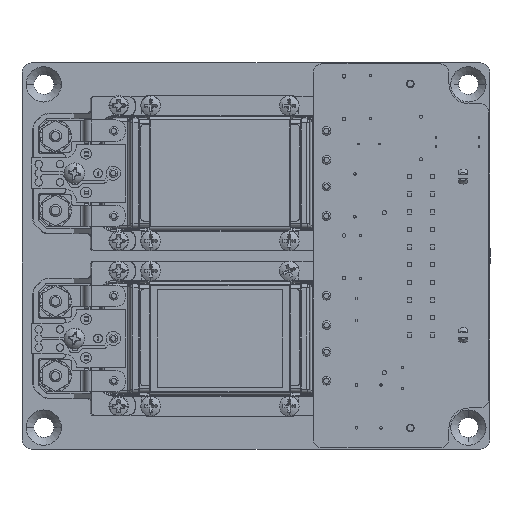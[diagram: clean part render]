
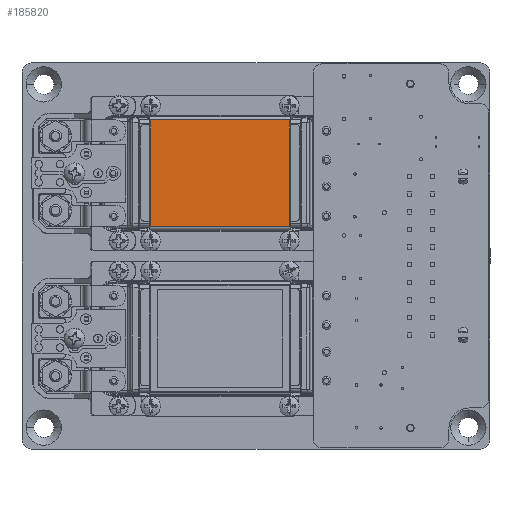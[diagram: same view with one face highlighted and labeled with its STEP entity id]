
A CAD part, top view. The second image highlights one B-rep face of the part: STEP entity #185820.
In plain terms, the highlighted planar face has unit normal (0, 0, 1).
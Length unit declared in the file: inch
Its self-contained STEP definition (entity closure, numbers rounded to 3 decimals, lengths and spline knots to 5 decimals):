
#47226 = VERTEX_POINT ( 'NONE', #59524 ) ;
#47228 = VERTEX_POINT ( 'NONE', #59525 ) ;
#47230 = VERTEX_POINT ( 'NONE', #59526 ) ;
#47231 = VERTEX_POINT ( 'NONE', #59527 ) ;
#54444 = PLANE ( 'NONE',  #63966 ) ;
#54446 = CARTESIAN_POINT ( 'NONE',  ( -10.59875, 6.4272, 0.71544 ) ) ;
#54449 = DIRECTION ( 'NONE',  ( 0., 0., 1. ) ) ;
#54450 = DIRECTION ( 'NONE',  ( 0., -1., 0. ) ) ;
#59524 = CARTESIAN_POINT ( 'NONE',  ( -3.1862, 1.27884, 0.71544 ) ) ;
#59525 = CARTESIAN_POINT ( 'NONE',  ( -1.8823, 1.27884, 0.71544 ) ) ;
#59526 = CARTESIAN_POINT ( 'NONE',  ( -3.1862, 0.27584, 0.71544 ) ) ;
#59527 = CARTESIAN_POINT ( 'NONE',  ( -1.8823, 0.27584, 0.71544 ) ) ;
#62283 = FACE_OUTER_BOUND ( 'NONE', #245182, .T. ) ;
#63966 = AXIS2_PLACEMENT_3D ( 'NONE', #54446, #54449, #54450 ) ;
#153226 = EDGE_CURVE ( 'NONE', #47228, #47231, #258060, .T. ) ;
#153241 = EDGE_CURVE ( 'NONE', #47231, #47230, #258068, .T. ) ;
#153250 = EDGE_CURVE ( 'NONE', #47226, #47228, #258072, .T. ) ;
#153253 = EDGE_CURVE ( 'NONE', #47230, #47226, #258075, .T. ) ;
#178859 = ORIENTED_EDGE ( 'NONE', *, *, #153241, .F. ) ;
#178860 = ORIENTED_EDGE ( 'NONE', *, *, #153250, .F. ) ;
#178862 = ORIENTED_EDGE ( 'NONE', *, *, #153226, .F. ) ;
#178865 = ORIENTED_EDGE ( 'NONE', *, *, #153253, .F. ) ;
#185820 = ADVANCED_FACE ( 'NONE', ( #62283 ), #54444, .T. ) ;
#235667 = VECTOR ( 'NONE', #266690, 39.37008 ) ;
#235676 = VECTOR ( 'NONE', #266710, 39.37008 ) ;
#235680 = VECTOR ( 'NONE', #266724, 39.37008 ) ;
#235682 = VECTOR ( 'NONE', #266727, 39.37008 ) ;
#245182 = EDGE_LOOP ( 'NONE', ( #178859, #178862, #178860, #178865 ) ) ;
#258060 = LINE ( 'NONE', #266688, #235667 ) ;
#258068 = LINE ( 'NONE', #266709, #235676 ) ;
#258072 = LINE ( 'NONE', #266722, #235680 ) ;
#258075 = LINE ( 'NONE', #266725, #235682 ) ;
#266688 = CARTESIAN_POINT ( 'NONE',  ( -1.8823, 0.27584, 0.71544 ) ) ;
#266690 = DIRECTION ( 'NONE',  ( 0., -1., 0. ) ) ;
#266709 = CARTESIAN_POINT ( 'NONE',  ( -3.1862, 0.27584, 0.71544 ) ) ;
#266710 = DIRECTION ( 'NONE',  ( -1., 0., 0. ) ) ;
#266722 = CARTESIAN_POINT ( 'NONE',  ( -1.8823, 1.27884, 0.71544 ) ) ;
#266724 = DIRECTION ( 'NONE',  ( 1., 0., 0. ) ) ;
#266725 = CARTESIAN_POINT ( 'NONE',  ( -3.1862, 1.27884, 0.71544 ) ) ;
#266727 = DIRECTION ( 'NONE',  ( 0., 1., 0. ) ) ;
